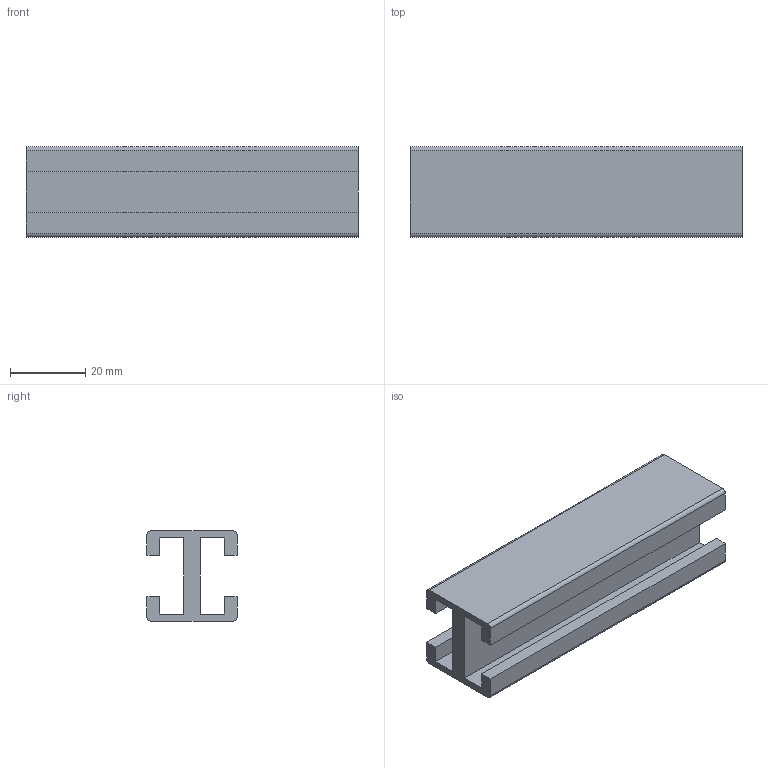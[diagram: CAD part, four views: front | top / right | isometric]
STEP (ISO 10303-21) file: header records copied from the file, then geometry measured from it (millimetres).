
FILE_DESCRIPTION (( 'STEP AP214' ), '1' );
FILE_NAME ('FBSB-24x24.STEP', '2011-11-21T12:18:35', ( '.' ), ( '' ), 'SwSTEP 2.0', 'SolidWorks 2010', '' );
FILE_SCHEMA (( 'AUTOMOTIVE_DESIGN' ));
Length unit declared in the file: millimetre
Products named in the file (1): FBSB-24x24
Bounding box: 88.42 x 24 x 24 mm (x, y, z)
Volume: 21061 mm3; surface area: 15568.2 mm2
Topology: 1 solids, 1 shells, 26 faces, 72 edges, 48 vertices
Faces by surface type: plane 22, cylinder 4
Entity records: 858 total; most frequent: CARTESIAN_POINT 147, ORIENTED_EDGE 144, DIRECTION 134, EDGE_CURVE 72, LINE 64, VECTOR 64, VERTEX_POINT 48, AXIS2_PLACEMENT_3D 35
